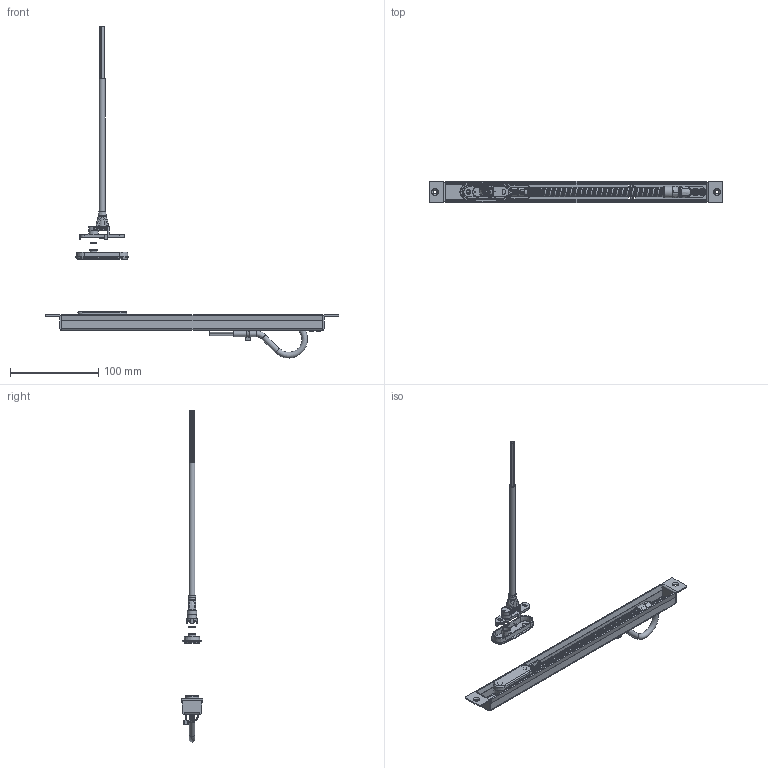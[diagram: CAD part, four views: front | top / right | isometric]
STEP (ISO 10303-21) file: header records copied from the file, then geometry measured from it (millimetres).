
FILE_DESCRIPTION(/* description */ (''),/* implementation_level */ '2;1');
FILE_NAME(/* name */ '1309597_Vereinfacht.stp',/* time_stamp */ '2025-12-15T09:31:32+01:00',/* author */ ('DSchwan'),/* organization */ (''),/* preprocessor_version */ 'ST-DEVELOPER v20',/* originating_system */ 'Autodesk Inventor 2025',/* authorisation */ '');
FILE_SCHEMA (('AUTOMOTIVE_DESIGN { 1 0 10303 214 3 1 1 }'));
Products named in the file (1): 1309597_Vereinfacht
Bounding box: 333 x 24.03 x 376.97 mm (x, y, z)
Volume: 65693.6 mm3; surface area: 85224.4 mm2
Topology: 4 solids, 62 shells, 3144 faces, 8237 edges, 5421 vertices
Faces by surface type: plane 1481, bspline 788, cylinder 552, torus 162, cone 150, sphere 11
Full cylindrical faces by diameter (mm): 0.05 x1, 0.4 x5, 0.5 x8, 0.55 x8, 0.6 x16, 0.7 x16, 0.75 x8, 0.85 x8, 1.2 x32, 1.25 x24, 1.3 x1, 1.4 x26, 1.5 x3, 1.6 x1, 2.459 x1, 3 x4, 3.621 x2, 3.726 x1, 4 x4, 4.7 x2, 5.2 x1, 5.7 x2, 5.8 x1, 6 x7, 6.47 x1, 6.5 x6, 7 x1, 7.1 x2, 7.24 x2, 7.4 x1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
Entity records: 126369 total; most frequent: CARTESIAN_POINT 50615, ORIENTED_EDGE 16424, DIRECTION 12448, EDGE_CURVE 8212, VERTEX_POINT 5411, LINE 4338, VECTOR 4338, AXIS2_PLACEMENT_3D 4055
